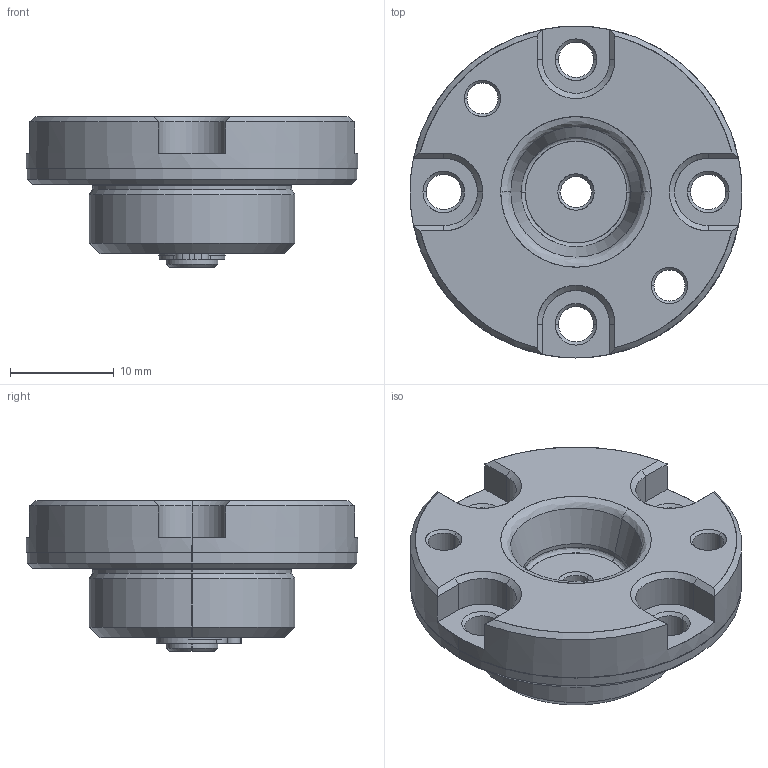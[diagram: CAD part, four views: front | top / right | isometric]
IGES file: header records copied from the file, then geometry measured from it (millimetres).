
Start section: SolidWorks IGES file using analytic representation for surfaces
Global section: file name: X:\11_SW2020-Inv2020\00_全2021-11新製品まで\c\CP725-16032\cp725-16032.IGS; native system: SolidWorks 2020; preprocessor: SolidWorks 2020; author: ImaoCorp; date: 211026.083841; units: millimetre
Bounding box: 32 x 32 x 14.5 mm (x, y, z)
Surface area: 3100.5 mm2 (no closed solid volume)
Topology: 0 solids, 0 shells, 133 faces, 1706 edges, 1706 vertices
Faces by surface type: revolution 91, bspline 42
